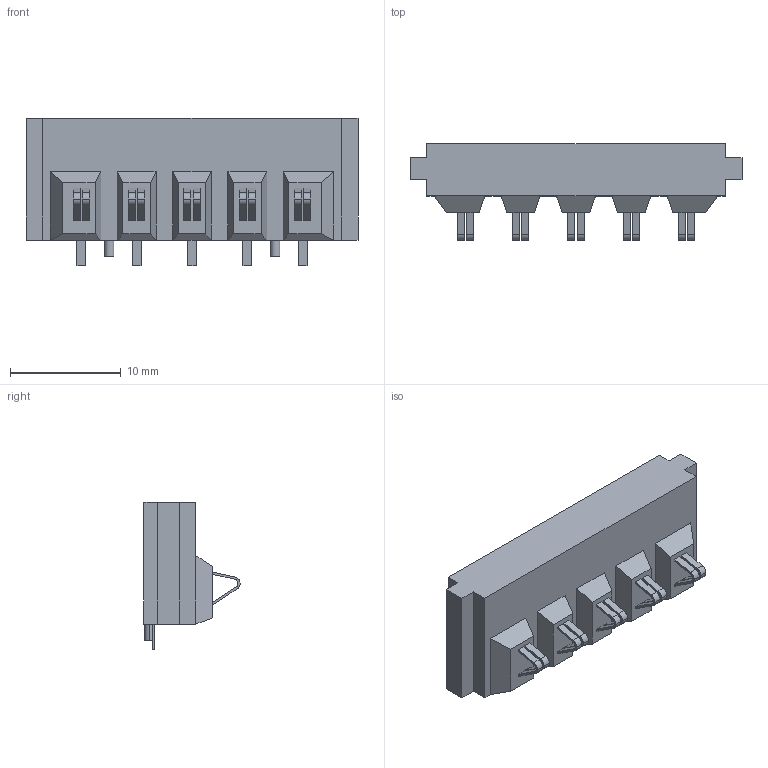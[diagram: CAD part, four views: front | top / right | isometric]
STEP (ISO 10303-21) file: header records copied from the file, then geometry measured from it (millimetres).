
FILE_DESCRIPTION (( 'STEP AP214' ), '1' );
FILE_NAME ('GC11-05-F.STEP', '2026-06-23T01:27:52', ( '' ), ( '' ), 'SwSTEP 2.0', 'SolidWorks 2023', '' );
FILE_SCHEMA (( 'AUTOMOTIVE_DESIGN' ));
Length unit declared in the file: millimetre
Products named in the file (1): GC11-05-F
Bounding box: 30 x 8.7 x 13.3 mm (x, y, z)
Volume: 1608.6 mm3; surface area: 1242.3 mm2
Topology: 1 solids, 1 shells, 180 faces, 503 edges, 332 vertices
Faces by surface type: plane 126, cylinder 54
Entity records: 5818 total; most frequent: CARTESIAN_POINT 1016, ORIENTED_EDGE 1006, DIRECTION 973, EDGE_CURVE 503, VECTOR 395, LINE 395, VERTEX_POINT 332, AXIS2_PLACEMENT_3D 289
